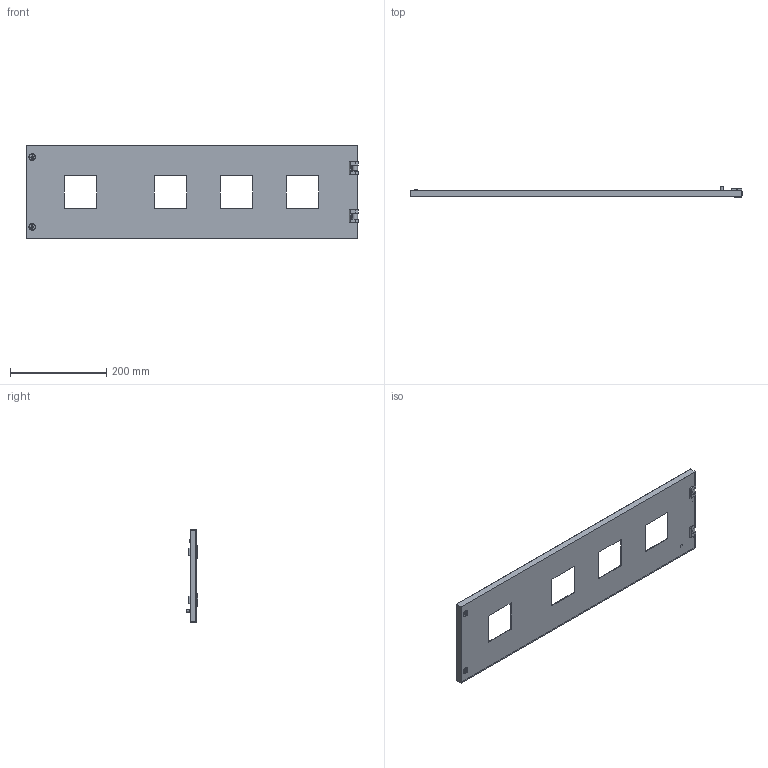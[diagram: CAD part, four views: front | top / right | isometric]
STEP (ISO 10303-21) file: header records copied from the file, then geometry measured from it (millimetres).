
FILE_DESCRIPTION(/* description */ (''),/* implementation_level */ '2;1');
FILE_NAME(/* name */ 'CPX8472C',/* time_stamp */ '2025-02-05T07:55:48+01:00',/* author */ ('Anitrano Rafael Marcelo'),/* organization */ ('QUADRITALIA SRL'),/* preprocessor_version */ 'ST-DEVELOPER v19.4',/* originating_system */ 'Solid Edge',/* authorisation */ 'Unknown');
FILE_SCHEMA (('AUTOMOTIVE_DESIGN {1 0 10303 214 3 1 1}'));
Length unit declared in the file: millimetre
Products named in the file (2): CPX8472C
Assembly tree (1 placements, depth 2):
  CPX8472C
    CPX8472C
Bounding box: 690 x 23.5 x 194 mm (x, y, z)
Volume: 216372.4 mm3; surface area: 285413 mm2
Topology: 1 solids, 1 shells, 409 faces, 1109 edges, 716 vertices
Faces by surface type: plane 280, cylinder 94, cone 15, torus 12, sphere 8
Full cylindrical faces by diameter (mm): 3.96 x2, 5.1 x2, 5.9 x6, 6 x3, 6.2 x2, 6.3 x4, 7 x1, 12 x2
Entity records: 15320 total; most frequent: CARTESIAN_POINT 2309, ORIENTED_EDGE 2070, DIRECTION 2046, EDGE_CURVE 1035, LINE 786, VECTOR 786, VERTEX_POINT 689, AXIS2_PLACEMENT_3D 630
